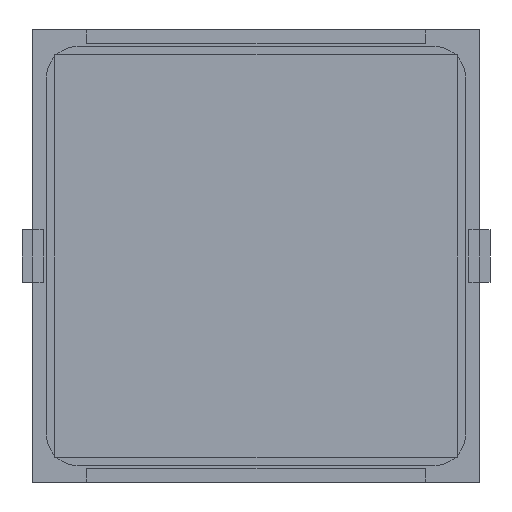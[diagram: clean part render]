
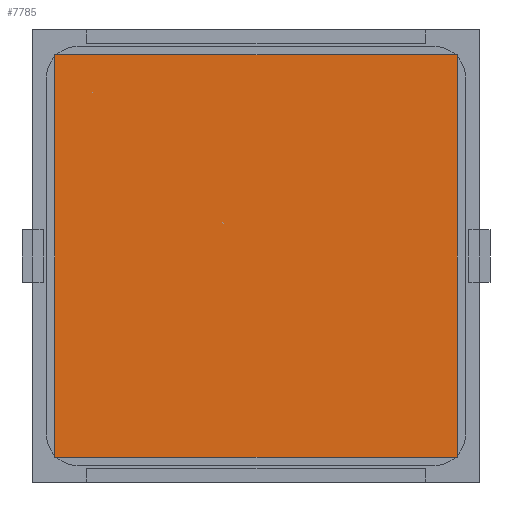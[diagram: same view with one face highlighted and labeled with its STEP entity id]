
A CAD part, front view. The second image highlights one B-rep face of the part: STEP entity #7785.
In plain terms, the highlighted planar face has unit normal (0, -1, 0).
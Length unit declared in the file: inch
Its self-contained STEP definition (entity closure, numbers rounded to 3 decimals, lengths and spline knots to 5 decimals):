
#1072 = ORIENTED_EDGE ( 'NONE', *, *, #11207, .T. ) ;
#1103 = DIRECTION ( 'NONE',  ( 0., 0., -1. ) ) ;
#1470 = VERTEX_POINT ( 'NONE', #1683 ) ;
#1683 = CARTESIAN_POINT ( 'NONE',  ( 0.74803, -0.005, -0.74803 ) ) ;
#2495 = CARTESIAN_POINT ( 'NONE',  ( 0.74803, -0.005, 0.74803 ) ) ;
#3016 = DIRECTION ( 'NONE',  ( 0., -1., 0. ) ) ;
#3275 = CARTESIAN_POINT ( 'NONE',  ( 0.74803, -0.005, -0.74803 ) ) ;
#3563 = LINE ( 'NONE', #9459, #3641 ) ;
#3641 = VECTOR ( 'NONE', #18447, 39.37008 ) ;
#4830 = LINE ( 'NONE', #3275, #9870 ) ;
#5521 = VECTOR ( 'NONE', #1103, 39.37008 ) ;
#5729 = CARTESIAN_POINT ( 'NONE',  ( -0.74803, -0.005, 0.74803 ) ) ;
#5952 = VERTEX_POINT ( 'NONE', #17715 ) ;
#7186 = PLANE ( 'NONE',  #10026 ) ;
#7538 = ORIENTED_EDGE ( 'NONE', *, *, #17593, .T. ) ;
#7785 = ADVANCED_FACE ( 'NONE', ( #16288 ), #7186, .T. ) ;
#8933 = DIRECTION ( 'NONE',  ( 0., 0., 1. ) ) ;
#8955 = ORIENTED_EDGE ( 'NONE', *, *, #12161, .T. ) ;
#9173 = DIRECTION ( 'NONE',  ( 0., 0., 1. ) ) ;
#9459 = CARTESIAN_POINT ( 'NONE',  ( 0.74803, -0.005, 0.74803 ) ) ;
#9870 = VECTOR ( 'NONE', #9173, 39.37008 ) ;
#9925 = DIRECTION ( 'NONE',  ( 1., 0., 0. ) ) ;
#10026 = AXIS2_PLACEMENT_3D ( 'NONE', #18985, #3016, #8933 ) ;
#10579 = VERTEX_POINT ( 'NONE', #5729 ) ;
#11087 = VECTOR ( 'NONE', #9925, 39.37008 ) ;
#11207 = EDGE_CURVE ( 'NONE', #17073, #10579, #3563, .T. ) ;
#11278 = ORIENTED_EDGE ( 'NONE', *, *, #17144, .T. ) ;
#12161 = EDGE_CURVE ( 'NONE', #5952, #1470, #12801, .T. ) ;
#12801 = LINE ( 'NONE', #13097, #11087 ) ;
#13097 = CARTESIAN_POINT ( 'NONE',  ( 0.74803, -0.005, -0.74803 ) ) ;
#13145 = LINE ( 'NONE', #18963, #5521 ) ;
#16288 = FACE_OUTER_BOUND ( 'NONE', #16312, .T. ) ;
#16312 = EDGE_LOOP ( 'NONE', ( #7538, #1072, #11278, #8955 ) ) ;
#17073 = VERTEX_POINT ( 'NONE', #2495 ) ;
#17144 = EDGE_CURVE ( 'NONE', #10579, #5952, #13145, .T. ) ;
#17593 = EDGE_CURVE ( 'NONE', #1470, #17073, #4830, .T. ) ;
#17715 = CARTESIAN_POINT ( 'NONE',  ( -0.74803, -0.005, -0.74803 ) ) ;
#18447 = DIRECTION ( 'NONE',  ( -1., 0., 0. ) ) ;
#18963 = CARTESIAN_POINT ( 'NONE',  ( -0.74803, -0.005, -0.74803 ) ) ;
#18985 = CARTESIAN_POINT ( 'NONE',  ( 0.74803, -0.005, 0.74803 ) ) ;
